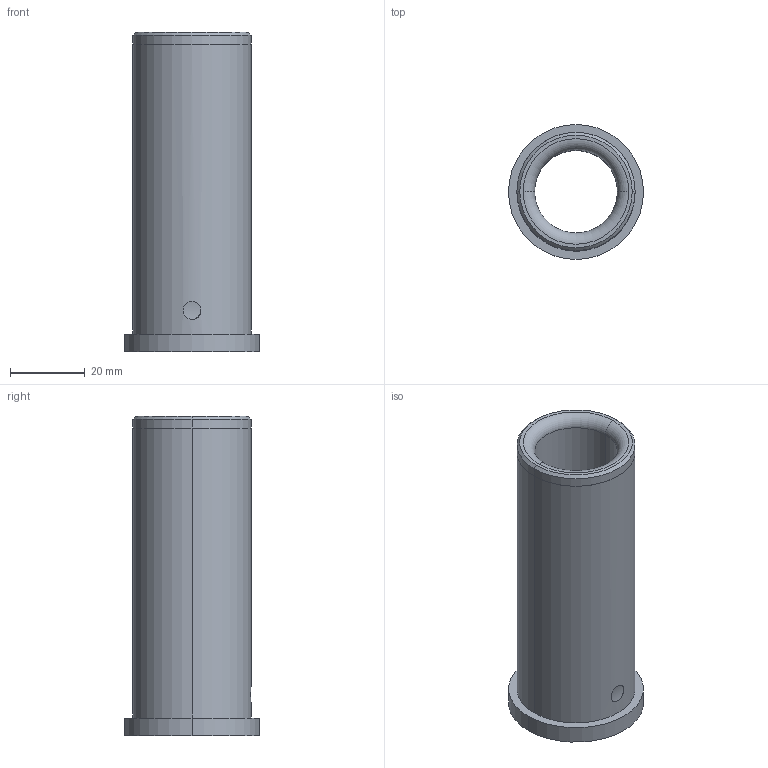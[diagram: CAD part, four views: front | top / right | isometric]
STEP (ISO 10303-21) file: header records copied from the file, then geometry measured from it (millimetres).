
FILE_DESCRIPTION (( 'STEP AP214' ), '1' );
FILE_NAME ('S875-27G.step', '2024-07-23T19:25:15', ( '' ), ( '' ), 'SwSTEP 2.0', 'SolidWorks 2017', '' );
FILE_SCHEMA (( 'AUTOMOTIVE_DESIGN' ));
Length unit declared in the file: inch
Products named in the file (1): S875-27G
Bounding box: 36.25 x 36.25 x 85.72 mm (x, y, z)
Volume: 35491.7 mm3; surface area: 15701.9 mm2
Topology: 1 solids, 1 shells, 21 faces, 42 edges, 26 vertices
Faces by surface type: cylinder 9, cone 4, plane 4, bspline 2, torus 2
Entity records: 825 total; most frequent: CARTESIAN_POINT 294, DIRECTION 102, ORIENTED_EDGE 84, AXIS2_PLACEMENT_3D 44, EDGE_CURVE 42, VERTEX_POINT 26, EDGE_LOOP 26, CIRCLE 24
